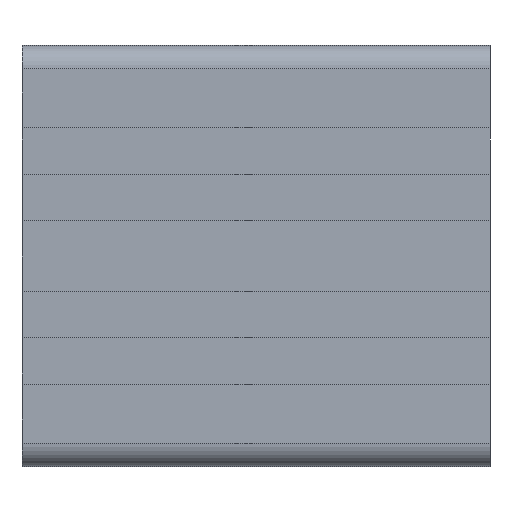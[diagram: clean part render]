
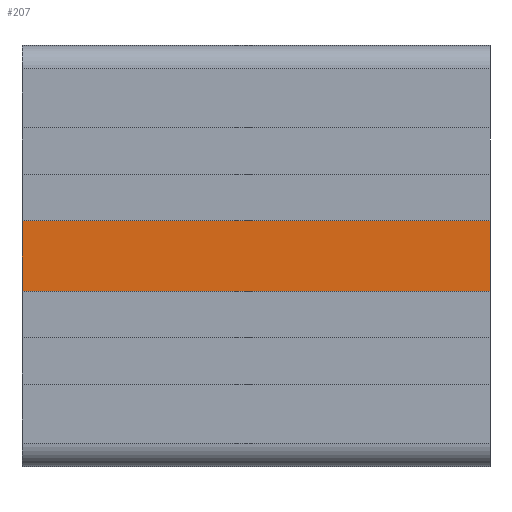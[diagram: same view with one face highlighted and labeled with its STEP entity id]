
A CAD part, left-side view. The second image highlights one B-rep face of the part: STEP entity #207.
In plain terms, the highlighted planar face has unit normal (-1, 0, 0).
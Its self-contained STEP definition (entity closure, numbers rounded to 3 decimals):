
#116 = LINE ( 'NONE', #2663, #3604 ) ;
#207 = ADVANCED_FACE ( 'NONE', ( #2796 ), #277, .F. ) ;
#214 = CARTESIAN_POINT ( 'NONE',  ( -44., -50., 7.5 ) ) ;
#277 = PLANE ( 'NONE',  #5393 ) ;
#435 = VECTOR ( 'NONE', #4926, 1000. ) ;
#657 = ORIENTED_EDGE ( 'NONE', *, *, #2518, .T. ) ;
#685 = ORIENTED_EDGE ( 'NONE', *, *, #1192, .T. ) ;
#1038 = VERTEX_POINT ( 'NONE', #1755 ) ;
#1192 = EDGE_CURVE ( 'NONE', #3268, #5140, #116, .T. ) ;
#1200 = ORIENTED_EDGE ( 'NONE', *, *, #1683, .F. ) ;
#1230 = DIRECTION ( 'NONE',  ( 0., -1., 0. ) ) ;
#1550 = DIRECTION ( 'NONE',  ( 0., 0., -1. ) ) ;
#1683 = EDGE_CURVE ( 'NONE', #3268, #1038, #3104, .T. ) ;
#1755 = CARTESIAN_POINT ( 'NONE',  ( -44., 50., 7.5 ) ) ;
#1760 = VECTOR ( 'NONE', #1230, 1000. ) ;
#1937 = LINE ( 'NONE', #2354, #435 ) ;
#1997 = LINE ( 'NONE', #3269, #1760 ) ;
#2354 = CARTESIAN_POINT ( 'NONE',  ( -44., -50., 7.5 ) ) ;
#2518 = EDGE_CURVE ( 'NONE', #5140, #4600, #1937, .T. ) ;
#2555 = VECTOR ( 'NONE', #5169, 1000. ) ;
#2663 = CARTESIAN_POINT ( 'NONE',  ( -44., 50., -7.5 ) ) ;
#2796 = FACE_OUTER_BOUND ( 'NONE', #3362, .T. ) ;
#3104 = LINE ( 'NONE', #3989, #2555 ) ;
#3179 = ORIENTED_EDGE ( 'NONE', *, *, #3354, .F. ) ;
#3219 = CARTESIAN_POINT ( 'NONE',  ( -44., -50., -7.5 ) ) ;
#3268 = VERTEX_POINT ( 'NONE', #5251 ) ;
#3269 = CARTESIAN_POINT ( 'NONE',  ( -44., 50., 7.5 ) ) ;
#3354 = EDGE_CURVE ( 'NONE', #1038, #4600, #1997, .T. ) ;
#3362 = EDGE_LOOP ( 'NONE', ( #657, #3179, #1200, #685 ) ) ;
#3604 = VECTOR ( 'NONE', #4812, 1000. ) ;
#3658 = CARTESIAN_POINT ( 'NONE',  ( -44., 50., 7.5 ) ) ;
#3989 = CARTESIAN_POINT ( 'NONE',  ( -44., 50., 7.5 ) ) ;
#4600 = VERTEX_POINT ( 'NONE', #214 ) ;
#4812 = DIRECTION ( 'NONE',  ( 0., -1., 0. ) ) ;
#4926 = DIRECTION ( 'NONE',  ( 0., 0., 1. ) ) ;
#5140 = VERTEX_POINT ( 'NONE', #3219 ) ;
#5169 = DIRECTION ( 'NONE',  ( 0., 0., 1. ) ) ;
#5251 = CARTESIAN_POINT ( 'NONE',  ( -44., 50., -7.5 ) ) ;
#5337 = DIRECTION ( 'NONE',  ( 1., 0., 0. ) ) ;
#5393 = AXIS2_PLACEMENT_3D ( 'NONE', #3658, #5337, #1550 ) ;
